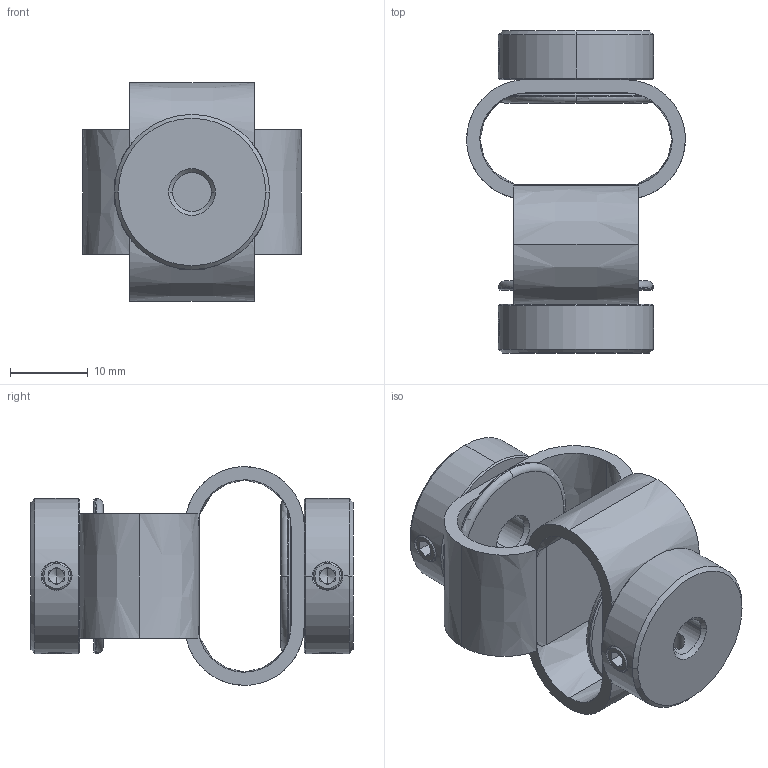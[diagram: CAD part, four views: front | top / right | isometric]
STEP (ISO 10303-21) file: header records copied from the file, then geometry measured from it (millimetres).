
FILE_DESCRIPTION (( 'STEP AP203' ), '1' );
FILE_NAME ('LS-D-D27L40-5-5.STEP', '2021-10-28T06:07:36', ( '' ), ( '' ), 'SwSTEP 2.0', 'SolidWorks 2018', '' );
FILE_SCHEMA (( 'CONFIG_CONTROL_DESIGN' ));
Length unit declared in the file: millimetre
Products named in the file (1): LS-D-D27L40-5-5
Bounding box: 28.2 x 41.54 x 28.2 mm (x, y, z)
Volume: 7452.5 mm3; surface area: 6697.6 mm2
Topology: 1 solids, 1 shells, 190 faces, 490 edges, 306 vertices
Faces by surface type: plane 86, cone 54, cylinder 30, bspline 16, torus 4
Entity records: 7759 total; most frequent: CARTESIAN_POINT 3201, ORIENTED_EDGE 964, DIRECTION 886, EDGE_CURVE 482, AXIS2_PLACEMENT_3D 345, VERTEX_POINT 306, EDGE_LOOP 218, VECTOR 196
